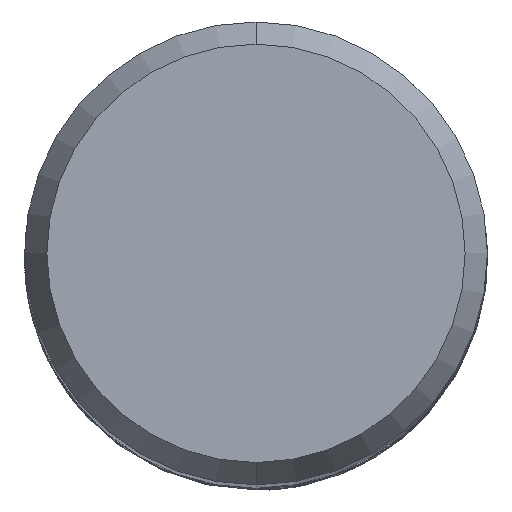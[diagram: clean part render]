
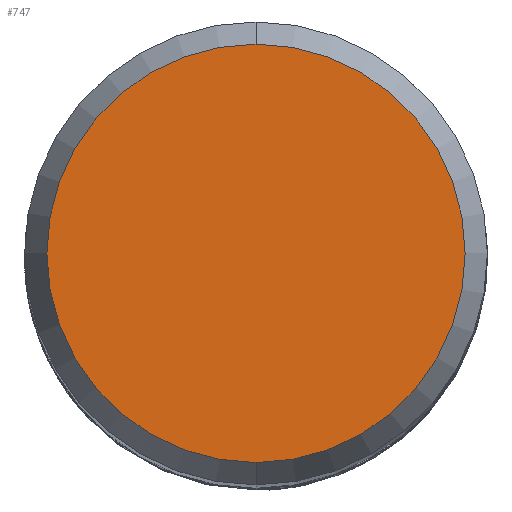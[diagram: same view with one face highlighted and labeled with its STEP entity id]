
A CAD part, top view. The second image highlights one B-rep face of the part: STEP entity #747.
In plain terms, the highlighted planar face has unit normal (0, 0, 1).
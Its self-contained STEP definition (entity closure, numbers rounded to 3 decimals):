
#747=ADVANCED_FACE('',(#1827),#1828,.T.);
#943=VERTEX_POINT('',#2038);
#1039=EDGE_CURVE('',#1391,#943,#2143,.T.);
#1083=EDGE_CURVE('',#943,#1391,#2192,.T.);
#1391=VERTEX_POINT('',#2533);
#1827=FACE_OUTER_BOUND('',#4032,.T.);
#1828=PLANE('',#4033);
#2038=CARTESIAN_POINT('',(0.0,5.423,0.0));
#2143=CIRCLE('',#6527,5.423);
#2192=CIRCLE('',#7259,5.423);
#2533=CARTESIAN_POINT('',(0.,-5.423,0.0));
#4032=EDGE_LOOP('',(#13778,#13779));
#4033=AXIS2_PLACEMENT_3D('',#13780,#13781,#13782);
#6527=AXIS2_PLACEMENT_3D('',#14083,#14084,#14085);
#7259=AXIS2_PLACEMENT_3D('',#14136,#14137,#14138);
#13778=ORIENTED_EDGE('',*,*,#1083,.F.);
#13779=ORIENTED_EDGE('',*,*,#1039,.F.);
#13780=CARTESIAN_POINT('',(0.0,2.711,0.0));
#13781=DIRECTION('',(-0.0,0.0,1.0));
#13782=DIRECTION('',(0.0,-1.0,0.0));
#14083=CARTESIAN_POINT('',(0.0,0.0,0.0));
#14084=DIRECTION('',(0.0,0.0,-1.0));
#14085=DIRECTION('',(0.0,1.0,0.0));
#14136=CARTESIAN_POINT('',(0.0,0.0,0.0));
#14137=DIRECTION('',(0.0,0.0,-1.0));
#14138=DIRECTION('',(0.0,1.0,0.0));
